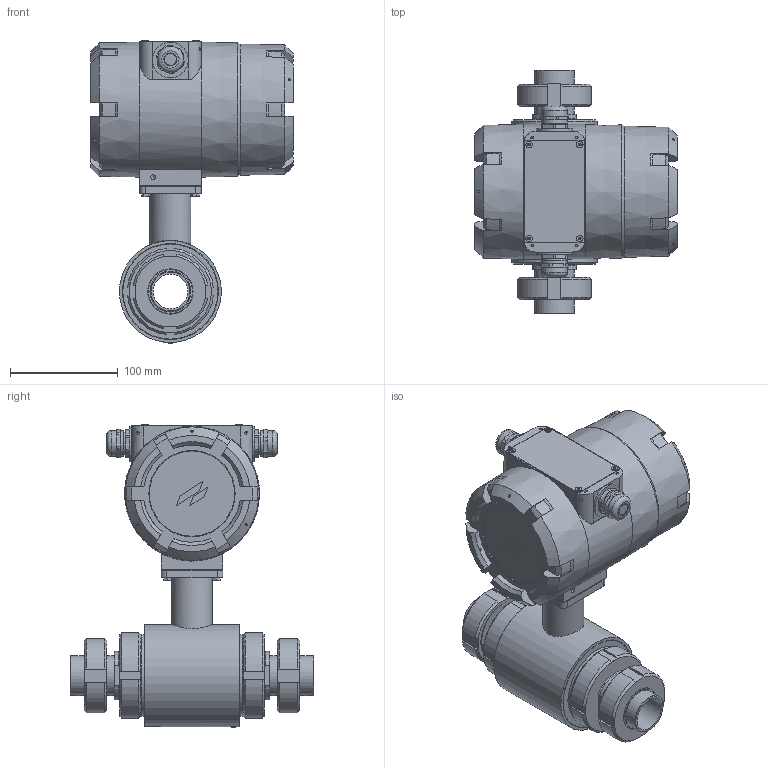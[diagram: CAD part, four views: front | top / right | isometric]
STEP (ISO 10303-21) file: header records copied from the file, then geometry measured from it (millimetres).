
FILE_DESCRIPTION(('STEP AP214'), '1');
FILE_NAME('ÂÇËÅÒ ÒÝÐ DN32 ïèùåâîé', '', ('UNSPECIFIED'), ('UNSPECIFIED'), 'ASCON STEP Converter 1.6', 'ASCON Math Kernel', '');
FILE_SCHEMA(('AUTOMOTIVE_DESIGN { 1 0 10303 214 3 1 1}'));
Length unit declared in the file: millimetre
Products named in the file (1): 婽挭.407212.002-03.01
Bounding box: 188 x 225.34 x 280.63 mm (x, y, z)
Volume: 1436046.8 mm3; surface area: 446464.1 mm2
Topology: 6 solids, 8 shells, 914 faces, 2292 edges, 1491 vertices
Faces by surface type: plane 455, cylinder 251, cone 154, torus 41, bspline 12, sphere 1
Full cylindrical faces by diameter (mm): 2 x10, 2.459 x4, 3.959 x10, 4 x9, 4.459 x1, 5 x4, 5.6 x1, 6 x12, 8 x2, 10 x4, 12 x2, 14.917 x2, 15 x2, 16 x3, 17.835 x1, 18.376 x1, 19 x2, 19.2 x2, 19.7 x2, 20 x2, 20.1 x2, 22 x2, 23 x1, 24 x4, 30 x3, 32 x4, 32.5 x1, 33 x3, 37 x6, 38 x2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
Entity records: 52934 total; most frequent: CARTESIAN_POINT 24744, DIRECTION 4175, ORIENTED_EDGE 4068, EDGE_CURVE 2034, AXIS2_PLACEMENT_3D 1675, VERTEX_POINT 1482, EDGE_LOOP 1350, FACE_BOUND 970
